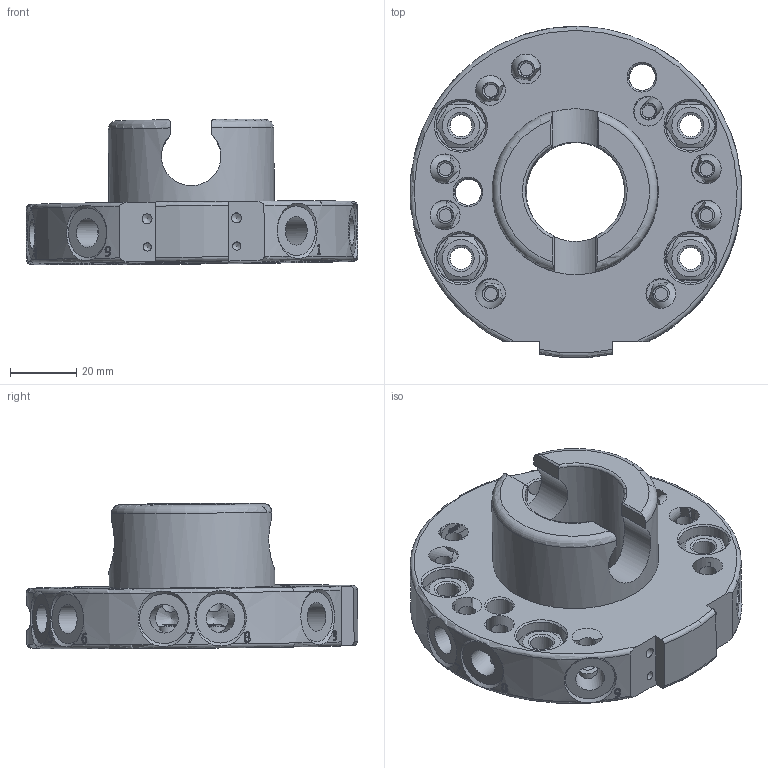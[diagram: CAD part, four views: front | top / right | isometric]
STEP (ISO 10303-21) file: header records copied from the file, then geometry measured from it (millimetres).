
FILE_DESCRIPTION(/* description */ (''),/* implementation_level */ '2;1');
FILE_NAME(/* name */ 'G-SHS100-U-A080-M8_Rev.1.01.stp',/* time_stamp */ '2024-07-17T15:31:57+02:00',/* author */ ('ysplieth'),/* organization */ (''),/* preprocessor_version */ 'ST-DEVELOPER v20',/* originating_system */ 'Autodesk Inventor 2024',/* authorisation */ '');
FILE_SCHEMA (('AUTOMOTIVE_DESIGN { 1 0 10303 214 3 1 1 }'));
Length unit declared in the file: millimetre
Products named in the file (1): Bauteil1
Bounding box: 100.11 x 99.99 x 43.93 mm (x, y, z)
Volume: 128357.2 mm3; surface area: 36127.7 mm2
Topology: 1 solids, 1 shells, 706 faces, 1969 edges, 1295 vertices
Faces by surface type: plane 279, bspline 213, cylinder 105, cone 99, torus 10
Full cylindrical faces by diameter (mm): 2.5 x2, 3 x2, 5 x19, 6.647 x4, 8 x2, 8.5 x4, 8.7 x9, 9 x9, 15 x4, 30 x1, 50 x2
Entity records: 53568 total; most frequent: CARTESIAN_POINT 36462, ORIENTED_EDGE 3896, DIRECTION 2561, EDGE_CURVE 1948, VERTEX_POINT 1295, AXIS2_PLACEMENT_3D 867, EDGE_LOOP 837, LINE 827
